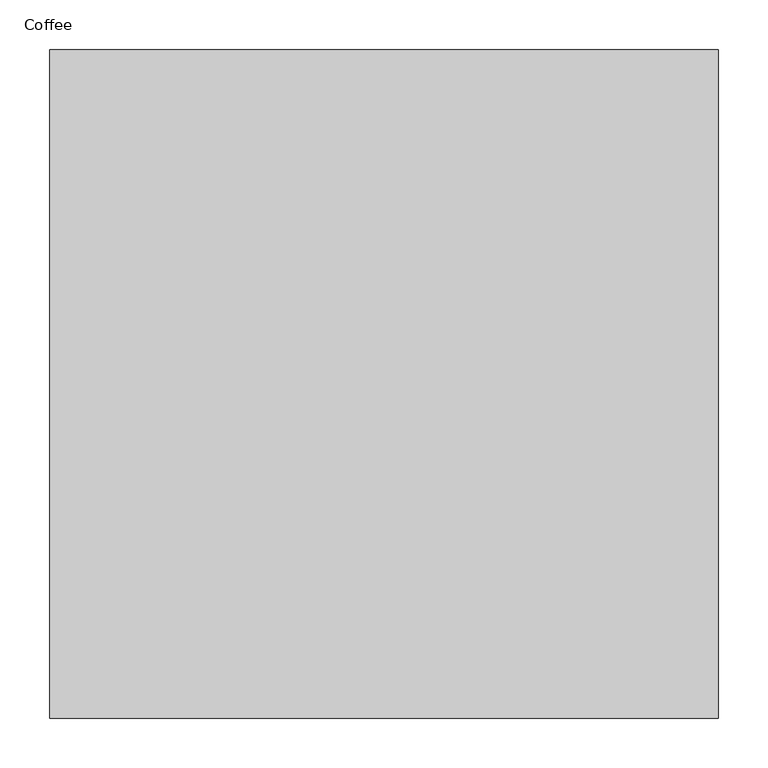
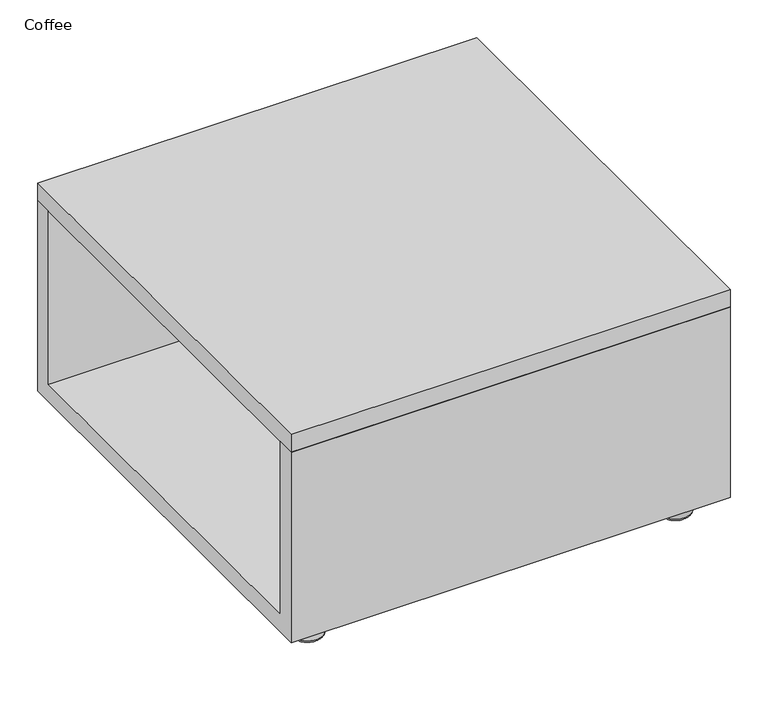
"""IFC4 building model written with IfcOpenShell, lengths in millimetres: furniture geometry, Steelcase Turnstone - Jenny - Table - Occasional - Low Feet : Coffee."""

import ifcopenshell
import ifcopenshell.guid

model = None  # the IFC model being written
_history = None  # IfcOwnerHistory: only IFC2X3 demands one
_inside = {}  # id of a spatial element -> (the spatial element, [elements in it])
_under = {}  # id of a project, library or spatial element -> (it, [spatial elements below it])
_declared = {}  # id of a project -> (the project, [libraries it declares])
_typed = {}  # id of a type object -> (the type object, [elements of that type])
_made_of = {}  # id of a material, layer set ... -> (it, [elements and type objects made of it])


def new_model(schema):
    """Start an empty IFC model of exactly this schema.

    Asked for "IFC4X3", IfcOpenShell would pick the latest addendum, in which some entities
    have other attributes; the version numbers below select the first issue.
    IFC2X3 requires an IfcOwnerHistory on every rooted entity: one is made here for all.
    """
    global model, _history
    if schema == "IFC4X3":
        model = ifcopenshell.file(schema_version=(4, 3, 0, 0))
    else:
        model = ifcopenshell.file(schema=schema)
    _inside.clear()
    _under.clear()
    _declared.clear()
    _typed.clear()
    _made_of.clear()
    _history = None
    if model.schema == "IFC2X3":
        org = make("IfcOrganization", Name="unknown")
        user = make(
            "IfcPersonAndOrganization",
            ThePerson=make("IfcPerson", FamilyName="unknown"),
            TheOrganization=org,
        )
        app = make(
            "IfcApplication",
            ApplicationDeveloper=org,
            Version="unknown",
            ApplicationFullName="unknown",
            ApplicationIdentifier="unknown",
        )
        _history = make(
            "IfcOwnerHistory",
            OwningUser=user,
            OwningApplication=app,
            ChangeAction="ADDED",
            CreationDate=0,
        )
    return model


def make(cls, **values):
    """One entity of the class cls with the attributes given. An attribute that is None is left unset."""
    return model.create_entity(
        cls, **{name: value for name, value in values.items() if value is not None}
    )


def rooted(cls, **values):
    """An entity with a GlobalId (a new one), such as an element, a storey or a relation."""
    return make(cls, GlobalId=ifcopenshell.guid.new(), OwnerHistory=_history, **values)


def si_unit(unit_type, name, prefix=None):
    """IfcSIUnit, for example si_unit("LENGTHUNIT", "METRE", prefix="MILLI")."""
    return make("IfcSIUnit", UnitType=unit_type, Prefix=prefix, Name=name)


def assignment(units):
    """IfcUnitAssignment: the units of a project."""
    return None if units is None else make("IfcUnitAssignment", Units=units)


def point(xyz):
    """IfcCartesianPoint."""
    return None if xyz is None else make("IfcCartesianPoint", Coordinates=xyz)


def direction(xyz):
    """IfcDirection."""
    return None if xyz is None else make("IfcDirection", DirectionRatios=xyz)


def frame(location, z_axis=None, x_axis=None):
    """IfcAxis2Placement3D, a coordinate frame: its origin and axes. An axis left out is left unset."""
    return make(
        "IfcAxis2Placement3D",
        Location=point(location),
        Axis=direction(z_axis),
        RefDirection=direction(x_axis),
    )


def origin():
    """The frame at (0, 0, 0) with its axes left unset."""
    return frame((0.0, 0.0, 0.0))


def place(relative_to, where):
    """IfcLocalPlacement: puts the frame where relative to a parent placement (None: the world)."""
    return make(
        "IfcLocalPlacement", PlacementRelTo=relative_to, RelativePlacement=where
    )


def context(
    kind, dimensions, precision=None, world=None, true_north=None, identifier=None
):
    """IfcGeometricRepresentationContext, for example the 3D "Model" context."""
    return make(
        "IfcGeometricRepresentationContext",
        ContextIdentifier=identifier,
        ContextType=kind,
        CoordinateSpaceDimension=dimensions,
        Precision=precision,
        WorldCoordinateSystem=world,
        TrueNorth=true_north,
    )


def project(units=None, contexts=None):
    """IfcProject with its units and contexts."""
    return rooted(
        "IfcProject",
        Name="project",
        RepresentationContexts=contexts,
        UnitsInContext=assignment(units),
    )


def spatial(cls, under=None, at=None, **own):
    """A site, building, storey or space (cls), placed at a placement, below another one or the project."""
    s = rooted(cls, ObjectPlacement=at, **own)
    if under is not None:
        _under.setdefault(under.id(), (under, []))[1].append(s)
    return s


def polyline(points):
    """IfcPolyline through the points."""
    return make("IfcPolyline", Points=[point(p) for p in points])


def circle_curve(where, radius):
    """IfcCircle in the frame where."""
    return make("IfcCircle", Position=where, Radius=radius)


def ellipse_curve(where, semi_axis1, semi_axis2):
    """IfcEllipse in the frame where."""
    return make(
        "IfcEllipse", Position=where, SemiAxis1=semi_axis1, SemiAxis2=semi_axis2
    )


def trimmed(basis, trim1, trim2, sense, master):
    """IfcTrimmedCurve: the piece of a basis curve between two trims."""
    return make(
        "IfcTrimmedCurve",
        BasisCurve=basis,
        Trim1=trim1,
        Trim2=trim2,
        SenseAgreement=sense,
        MasterRepresentation=master,
    )


def outline(outer, holes=None, kind="AREA"):
    """IfcArbitraryClosedProfileDef: a profile drawn as a closed curve; with holes, ...WithVoids."""
    if holes is None:
        return make("IfcArbitraryClosedProfileDef", ProfileType=kind, OuterCurve=outer)
    return make(
        "IfcArbitraryProfileDefWithVoids",
        ProfileType=kind,
        OuterCurve=outer,
        InnerCurves=holes,
    )


def extrude(swept, where, along, depth):
    """IfcExtrudedAreaSolid: the profile swept, set in the frame where, extruded along a direction by depth."""
    return make(
        "IfcExtrudedAreaSolid",
        SweptArea=swept,
        Position=where,
        ExtrudedDirection=direction(along),
        Depth=depth,
    )


def shape(context_of_items, identifier, shape_type, items):
    """IfcShapeRepresentation: the items that make up one representation, for example the "Body"."""
    return make(
        "IfcShapeRepresentation",
        ContextOfItems=context_of_items,
        RepresentationIdentifier=identifier,
        RepresentationType=shape_type,
        Items=items,
    )


def source(mapping_origin, context_of_items, identifier, shape_type, items):
    """IfcRepresentationMap: a shape defined once, which mapped items show again and again."""
    return make(
        "IfcRepresentationMap",
        MappingOrigin=mapping_origin,
        MappedRepresentation=shape(context_of_items, identifier, shape_type, items),
    )


def transform(
    local_origin,
    x_axis=None,
    y_axis=None,
    z_axis=None,
    scale=None,
    scale2=None,
    scale3=None,
    uniform=True,
):
    """IfcCartesianTransformationOperator3D, or its non-uniform kind. x_axis, y_axis, z_axis: its Axis1, 2, 3."""
    if uniform:
        return make(
            "IfcCartesianTransformationOperator3D",
            Axis1=direction(x_axis),
            Axis2=direction(y_axis),
            LocalOrigin=point(local_origin),
            Scale=scale,
            Axis3=direction(z_axis),
        )
    return make(
        "IfcCartesianTransformationOperator3DnonUniform",
        Axis1=direction(x_axis),
        Axis2=direction(y_axis),
        LocalOrigin=point(local_origin),
        Scale=scale,
        Axis3=direction(z_axis),
        Scale2=scale2,
        Scale3=scale3,
    )


def mapped(mapping_source, mapping_target):
    """IfcMappedItem: shows the shape of a source again, moved by a transform."""
    return make(
        "IfcMappedItem", MappingSource=mapping_source, MappingTarget=mapping_target
    )


def made_of(thing, what):
    """Note that an element or type object is made of a material, layer set ...; save() writes the relation."""
    if what is not None:
        _made_of.setdefault(what.id(), (what, []))[1].append(thing)
    return thing


def element(
    cls,
    number,
    at=None,
    inside=None,
    cuts=None,
    type_object=None,
    material=None,
    context=None,
    identifier="Body",
    shape_type=None,
    held_by="IfcProductDefinitionShape",
    body=None,
    shapes=None,
    **own,
):
    """One element of the class cls, such as IfcWall. Its Tag is "e" and its number.

    at: its placement. inside: the storey or other place that contains it. cuts: it is an
    opening in that element (IfcRelVoidsElement). A single representation is given by context,
    identifier, shape_type and body (its items); several are given by shapes. held_by: the class
    of the entity that holds the representations. save() writes the other relations.
    """
    e = rooted(cls, Tag="e%d" % number, ObjectPlacement=at, **own)
    if body is not None:
        shapes = [shape(context, identifier, shape_type, body)]
    if shapes is not None:
        e.Representation = make(held_by, Representations=shapes)
    if inside is not None:
        _inside.setdefault(inside.id(), (inside, []))[1].append(e)
    if cuts is not None:
        rooted(
            "IfcRelVoidsElement", RelatingBuildingElement=cuts, RelatedOpeningElement=e
        )
    if type_object is not None:
        _typed.setdefault(type_object.id(), (type_object, []))[1].append(e)
    return made_of(e, material)


def aggregate(whole, parts):
    """IfcRelAggregates: a whole, such as a stair, and the parts it consists of."""
    return rooted("IfcRelAggregates", RelatingObject=whole, RelatedObjects=parts)


def save(model, path):
    """Write the relations noted so far, then the file.

    IfcRelAggregates (storeys below a building ...), IfcRelContainedInSpatialStructure (elements
    in a storey), IfcRelDefinesByType, IfcRelAssociatesMaterial and IfcRelDeclares: one each for
    every whole, place, type object, material and project.
    """
    for whole, parts in _under.values():
        aggregate(whole, parts)
    for where, things in _inside.values():
        rooted(
            "IfcRelContainedInSpatialStructure",
            RelatedElements=things,
            RelatingStructure=where,
        )
    for kind, things in _typed.values():
        rooted("IfcRelDefinesByType", RelatedObjects=things, RelatingType=kind)
    for what, things in _made_of.values():
        rooted("IfcRelAssociatesMaterial", RelatedObjects=things, RelatingMaterial=what)
    for by, libraries in _declared.values():
        rooted("IfcRelDeclares", RelatingContext=by, RelatedDefinitions=libraries)
    model.write(path)


def plane_surface(at):
    """IfcPlane: the flat surface through the origin of the frame at, square to its z axis."""
    return make("IfcPlane", Position=at)


def cylinder_surface(at, radius):
    """IfcCylindricalSurface: all points at the distance radius from the z axis of the frame at."""
    return make("IfcCylindricalSurface", Position=at, Radius=radius)


def revolved_surface(curve, axis_point, axis_direction):
    """IfcSurfaceOfRevolution: the curve turned about the line through axis_point along axis_direction."""
    return make(
        "IfcSurfaceOfRevolution",
        SweptCurve=make("IfcArbitraryOpenProfileDef", ProfileType="CURVE", Curve=curve),
        AxisPosition=make("IfcAxis1Placement", Location=point(axis_point), Axis=direction(axis_direction)),
    )


def advanced_brep(points, edges, surfaces, faces):
    """IfcAdvancedBrep: a solid bounded by faces that lie on surfaces and meet in shared edges.

    An edge is (start, end): straight between two places in points (the first is 0);
    or (start, end, curve); or (start, end, curve, False) where it runs against its curve.
    A face is (place in surfaces, loops), or (place, loops, False) where it looks against
    its surface's normal. A loop lists edges by number (the first is 1), with a minus sign
    where the edge is run from its end to its start. The first loop is the outer one.
    """
    corners = [point(p) for p in points]
    vertices = [make("IfcVertexPoint", VertexGeometry=c) for c in corners]
    made = []
    for start, end, *more in edges:
        made.append(
            make(
                "IfcEdgeCurve",
                EdgeStart=vertices[start],
                EdgeEnd=vertices[end],
                EdgeGeometry=more[0] if more else make("IfcPolyline", Points=[corners[start], corners[end]]),
                SameSense=more[1] if len(more) > 1 else True,
            )
        )
    hull = []
    for where, loops, *sense in faces:
        bounds = []
        for j, loop in enumerate(loops):
            ring = [make("IfcOrientedEdge", EdgeElement=made[abs(k) - 1], Orientation=k > 0) for k in loop]
            bounds.append(
                make(
                    "IfcFaceOuterBound" if j == 0 else "IfcFaceBound",
                    Bound=make("IfcEdgeLoop", EdgeList=ring),
                    Orientation=True,
                )
            )
        hull.append(make("IfcAdvancedFace", Bounds=bounds, FaceSurface=surfaces[where], SameSense=sense[0] if sense else True))
    return make("IfcAdvancedBrep", Outer=make("IfcClosedShell", CfsFaces=hull))


def coffee_516a3fa5(model_context):
    return source(origin(), model_context, "Body", "SolidModel", [
        advanced_brep(
        [(629.9212936, -621.2741914, 0.0), (607.2241711, -621.2741914, 0.0), (618.5727324, -621.2741914, 0.0), (631.1912935, -621.2741914, 1.2699999), (605.9541712, -621.2741914, 1.2699999), (631.1912935, -621.2741914, 2.9122677), (605.9541712, -621.2741914, 2.9122677), (638.1106836, -621.2741914, 2.9122677), (599.0347811, -621.2741914, 2.9122677), (642.0900352, -621.2741914, 6.5984053), (595.0554295, -621.2741914, 6.5984053), (642.9427038, -621.2741914, 38.1), (594.2027609, -621.2741914, 38.1), (618.5727324, -621.2741914, 38.1)],
        [
            (0, 1, circle_curve(frame((618.5727324, -621.2741914, 0.0), z_axis=(0.0, 0.0, -1.0), x_axis=(-1.0, 0.0, 0.0)), 11.3485612)),
            (1, 2),
            (2, 0),
            (1, 0, circle_curve(frame((618.5727324, -621.2741914, 0.0), z_axis=(0.0, 0.0, -1.0), x_axis=(-1.0, 0.0, 0.0)), 11.3485612)),
            (3, 4, circle_curve(frame((618.5727324, -621.2741914, 1.2699999), z_axis=(0.0, 0.0, -1.0), x_axis=(-1.0, 0.0, 0.0)), 12.6185612)),
            (4, 1),
            (0, 3),
            (4, 3, circle_curve(frame((618.5727324, -621.2741914, 1.2699999), z_axis=(0.0, 0.0, -1.0), x_axis=(-1.0, 0.0, 0.0)), 12.6185612)),
            (5, 6, circle_curve(frame((618.5727324, -621.2741914, 2.9122677), z_axis=(0.0, 0.0, -1.0), x_axis=(-1.0, 0.0, 0.0)), 12.6185612)),
            (6, 4),
            (3, 5),
            (6, 5, circle_curve(frame((618.5727324, -621.2741914, 2.9122677), z_axis=(0.0, 0.0, -1.0), x_axis=(-1.0, 0.0, 0.0)), 12.6185612)),
            (7, 8, circle_curve(frame((618.5727324, -621.2741914, 2.9122677), z_axis=(0.0, 0.0, -1.0), x_axis=(-1.0, 0.0, 0.0)), 19.5379512)),
            (8, 6),
            (5, 7),
            (8, 7, circle_curve(frame((618.5727324, -621.2741914, 2.9122677), z_axis=(0.0, 0.0, -1.0), x_axis=(-1.0, 0.0, 0.0)), 19.5379512)),
            (9, 10, circle_curve(frame((618.5727324, -621.2741914, 6.5984053), z_axis=(0.0, 0.0, -1.0), x_axis=(-1.0, 0.0, 0.0)), 23.5173029)),
            (10, 8, circle_curve(frame((599.0347811, -621.2741914, 6.9032812), z_axis=(0.0, -1.0, 0.0), x_axis=(0.0, 0.0, -1.0)), 3.9910135)),
            (7, 9, circle_curve(frame((638.1106836, -621.2741914, 6.9032812), z_axis=(0.0, -1.0, 0.0), x_axis=(0.0, 0.0, -1.0)), 3.9910135)),
            (10, 9, circle_curve(frame((618.5727324, -621.2741914, 6.5984053), z_axis=(0.0, 0.0, -1.0), x_axis=(-1.0, 0.0, 0.0)), 23.5173029)),
            (11, 12, circle_curve(frame((618.5727324, -621.2741914, 38.1), z_axis=(0.0, 0.0, -1.0), x_axis=(-1.0, 0.0, 0.0)), 24.3699714)),
            (12, 10),
            (9, 11),
            (12, 11, circle_curve(frame((618.5727324, -621.2741914, 38.1), z_axis=(0.0, 0.0, -1.0), x_axis=(-1.0, 0.0, 0.0)), 24.3699714)),
            (13, 12),
            (11, 13),
        ],
        [
            plane_surface(frame((618.5727324, -621.2741914, 0.0), z_axis=(0.0, 0.0, -1.0), x_axis=(-1.0, 0.0, 0.0))),
            revolved_surface(polyline([(607.2241711, -621.2741914, 0.0), (605.9541712, -621.2741914, 1.2699999)]), (618.5727324, -621.2741914, 95.7636405), (0.0, 0.0, 1.0)),
            cylinder_surface(frame((618.5727324, -621.2741914, 95.7636405), z_axis=(0.0, 0.0, 1.0), x_axis=(-1.0, 0.0, 0.0)), 12.6185612),
            plane_surface(frame((618.5727324, -621.2741914, 2.9122677), z_axis=(0.0, 0.0, -1.0), x_axis=(-1.0, 0.0, 0.0))),
            revolved_surface(trimmed(ellipse_curve(frame((599.0347811, -621.2741914, 6.9032812), z_axis=(0.0, 1.0, 0.0), x_axis=(0.0, 0.0, -1.0)), 3.9910135, 3.9910135), [point((599.0347811, -621.2741914, 2.9122677))], [point((595.0554295, -621.2741914, 6.5984053))], True, "CARTESIAN"), (618.5727324, -621.2741914, 95.7636405), (0.0, 0.0, 1.0)),
            revolved_surface(polyline([(595.0554295, -621.2741914, 6.5984053), (594.2027609, -621.2741914, 38.1)]), (618.5727324, -621.2741914, 95.7636405), (0.0, 0.0, 1.0)),
            plane_surface(frame((618.5727324, -621.2741914, 38.1), z_axis=(0.0, 0.0, 1.0), x_axis=(-1.0, 0.0, 0.0))),
        ],
        [
            (0, [[1, 2, 3]]),
            (0, [[4, -3, -2]]),
            (1, [[5, 6, -1, 7]]),
            (1, [[8, -7, -4, -6]]),
            (2, [[9, 10, -5, 11]]),
            (2, [[12, -11, -8, -10]]),
            (3, [[13, 14, -9, 15]]),
            (3, [[16, -15, -12, -14]]),
            (4, [[17, 18, -13, 19]]),
            (4, [[20, -19, -16, -18]]),
            (5, [[21, 22, -17, 23]]),
            (5, [[24, -23, -20, -22]]),
            (6, [[25, -21, 26]]),
            (6, [[-26, -24, -25]]),
        ],
    ),
        advanced_brep(
        [(54.5272676, -621.2741914, 0.0), (65.8758289, -621.2741914, 0.0), (43.1787064, -621.2741914, 0.0), (67.1458288, -621.2741914, 1.2699999), (41.9087065, -621.2741914, 1.2699999), (67.1458288, -621.2741914, 2.9122677), (41.9087065, -621.2741914, 2.9122677), (74.0652189, -621.2741914, 2.9122677), (34.9893164, -621.2741914, 2.9122677), (78.0445705, -621.2741914, 6.5984053), (31.0099648, -621.2741914, 6.5984053), (78.8972391, -621.2741914, 38.1), (30.1572962, -621.2741914, 38.1), (54.5272676, -621.2741914, 38.1)],
        [
            (0, 1),
            (1, 2, circle_curve(frame((54.5272676, -621.2741914, 0.0), z_axis=(0.0, 0.0, -1.0), x_axis=(1.0, 0.0, 0.0)), 11.3485612)),
            (2, 0),
            (2, 1, circle_curve(frame((54.5272676, -621.2741914, 0.0), z_axis=(0.0, 0.0, -1.0), x_axis=(1.0, 0.0, 0.0)), 11.3485612)),
            (1, 3),
            (3, 4, circle_curve(frame((54.5272676, -621.2741914, 1.2699999), z_axis=(0.0, 0.0, -1.0), x_axis=(1.0, 0.0, 0.0)), 12.6185612)),
            (4, 2),
            (4, 3, circle_curve(frame((54.5272676, -621.2741914, 1.2699999), z_axis=(0.0, 0.0, -1.0), x_axis=(1.0, 0.0, 0.0)), 12.6185612)),
            (3, 5),
            (5, 6, circle_curve(frame((54.5272676, -621.2741914, 2.9122677), z_axis=(0.0, 0.0, -1.0), x_axis=(1.0, 0.0, 0.0)), 12.6185612)),
            (6, 4),
            (6, 5, circle_curve(frame((54.5272676, -621.2741914, 2.9122677), z_axis=(0.0, 0.0, -1.0), x_axis=(1.0, 0.0, 0.0)), 12.6185612)),
            (5, 7),
            (7, 8, circle_curve(frame((54.5272676, -621.2741914, 2.9122677), z_axis=(0.0, 0.0, -1.0), x_axis=(1.0, 0.0, 0.0)), 19.5379512)),
            (8, 6),
            (8, 7, circle_curve(frame((54.5272676, -621.2741914, 2.9122677), z_axis=(0.0, 0.0, -1.0), x_axis=(1.0, 0.0, 0.0)), 19.5379512)),
            (7, 9, circle_curve(frame((74.0652189, -621.2741914, 6.9032812), z_axis=(0.0, -1.0, 0.0), x_axis=(0.0, 0.0, -1.0)), 3.9910135)),
            (9, 10, circle_curve(frame((54.5272676, -621.2741914, 6.5984053), z_axis=(0.0, 0.0, -1.0), x_axis=(1.0, 0.0, 0.0)), 23.5173029)),
            (10, 8, circle_curve(frame((34.9893164, -621.2741914, 6.9032812), z_axis=(0.0, -1.0, 0.0), x_axis=(0.0, 0.0, -1.0)), 3.9910135)),
            (10, 9, circle_curve(frame((54.5272676, -621.2741914, 6.5984053), z_axis=(0.0, 0.0, -1.0), x_axis=(1.0, 0.0, 0.0)), 23.5173029)),
            (9, 11),
            (11, 12, circle_curve(frame((54.5272676, -621.2741914, 38.1), z_axis=(0.0, 0.0, -1.0), x_axis=(1.0, 0.0, 0.0)), 24.3699714)),
            (12, 10),
            (12, 11, circle_curve(frame((54.5272676, -621.2741914, 38.1), z_axis=(0.0, 0.0, -1.0), x_axis=(1.0, 0.0, 0.0)), 24.3699714)),
            (11, 13),
            (13, 12),
        ],
        [
            plane_surface(frame((54.5272676, -621.2741914, 0.0), z_axis=(0.0, 0.0, -1.0), x_axis=(1.0, 0.0, 0.0))),
            revolved_surface(polyline([(67.1458288, -621.2741914, 1.2699999), (65.8758289, -621.2741914, 0.0)]), (54.5272676, -621.2741914, 95.7636405), (0.0, 0.0, -1.0)),
            cylinder_surface(frame((54.5272676, -621.2741914, 95.7636405), z_axis=(0.0, 0.0, -1.0), x_axis=(1.0, 0.0, 0.0)), 12.6185612),
            plane_surface(frame((54.5272676, -621.2741914, 2.9122677), z_axis=(0.0, 0.0, -1.0), x_axis=(1.0, 0.0, 0.0))),
            revolved_surface(trimmed(ellipse_curve(frame((74.0652189, -621.2741914, 6.9032812), z_axis=(0.0, 1.0, 0.0), x_axis=(0.0, 0.0, -1.0)), 3.9910135, 3.9910135), [point((78.0445705, -621.2741914, 6.5984053))], [point((74.0652189, -621.2741914, 2.9122677))], True, "CARTESIAN"), (54.5272676, -621.2741914, 95.7636405), (0.0, 0.0, -1.0)),
            revolved_surface(polyline([(78.8972391, -621.2741914, 38.1), (78.0445705, -621.2741914, 6.5984053)]), (54.5272676, -621.2741914, 95.7636405), (0.0, 0.0, -1.0)),
            plane_surface(frame((54.5272676, -621.2741914, 38.1), z_axis=(0.0, 0.0, 1.0), x_axis=(1.0, 0.0, 0.0))),
        ],
        [
            (0, [[1, 2, 3]]),
            (0, [[-3, 4, -1]]),
            (1, [[-2, 5, 6, 7]]),
            (1, [[-4, -7, 8, -5]]),
            (2, [[-6, 9, 10, 11]]),
            (2, [[-8, -11, 12, -9]]),
            (3, [[-10, 13, 14, 15]]),
            (3, [[-12, -15, 16, -13]]),
            (4, [[-14, 17, 18, 19]]),
            (4, [[-16, -19, 20, -17]]),
            (5, [[-18, 21, 22, 23]]),
            (5, [[-20, -23, 24, -21]]),
            (6, [[-22, 25, 26]]),
            (6, [[-24, -26, -25]]),
        ],
    ),
        advanced_brep(
        [(618.5727324, -51.8258086, 0.0), (607.2241711, -51.8258086, 0.0), (629.9212936, -51.8258086, 0.0), (605.9541712, -51.8258086, 1.2699999), (631.1912935, -51.8258086, 1.2699999), (605.9541712, -51.8258086, 2.9122677), (631.1912935, -51.8258086, 2.9122677), (599.0347811, -51.8258086, 2.9122677), (638.1106836, -51.8258086, 2.9122677), (595.0554295, -51.8258086, 6.5984053), (642.0900352, -51.8258086, 6.5984053), (594.2027609, -51.8258086, 38.1), (642.9427038, -51.8258086, 38.1), (618.5727324, -51.8258086, 38.1)],
        [
            (0, 1),
            (1, 2, circle_curve(frame((618.5727324, -51.8258086, 0.0), z_axis=(0.0, 0.0, -1.0), x_axis=(-1.0, 0.0, 0.0)), 11.3485612)),
            (2, 0),
            (2, 1, circle_curve(frame((618.5727324, -51.8258086, 0.0), z_axis=(0.0, 0.0, -1.0), x_axis=(-1.0, 0.0, 0.0)), 11.3485612)),
            (1, 3),
            (3, 4, circle_curve(frame((618.5727324, -51.8258086, 1.2699999), z_axis=(0.0, 0.0, -1.0), x_axis=(-1.0, 0.0, 0.0)), 12.6185612)),
            (4, 2),
            (4, 3, circle_curve(frame((618.5727324, -51.8258086, 1.2699999), z_axis=(0.0, 0.0, -1.0), x_axis=(-1.0, 0.0, 0.0)), 12.6185612)),
            (3, 5),
            (5, 6, circle_curve(frame((618.5727324, -51.8258086, 2.9122677), z_axis=(0.0, 0.0, -1.0), x_axis=(-1.0, 0.0, 0.0)), 12.6185612)),
            (6, 4),
            (6, 5, circle_curve(frame((618.5727324, -51.8258086, 2.9122677), z_axis=(0.0, 0.0, -1.0), x_axis=(-1.0, 0.0, 0.0)), 12.6185612)),
            (5, 7),
            (7, 8, circle_curve(frame((618.5727324, -51.8258086, 2.9122677), z_axis=(0.0, 0.0, -1.0), x_axis=(-1.0, 0.0, 0.0)), 19.5379512)),
            (8, 6),
            (8, 7, circle_curve(frame((618.5727324, -51.8258086, 2.9122677), z_axis=(0.0, 0.0, -1.0), x_axis=(-1.0, 0.0, 0.0)), 19.5379512)),
            (7, 9, circle_curve(frame((599.0347811, -51.8258086, 6.9032812), z_axis=(0.0, 1.0, 0.0), x_axis=(0.0, 0.0, -1.0)), 3.9910135)),
            (9, 10, circle_curve(frame((618.5727324, -51.8258086, 6.5984053), z_axis=(0.0, 0.0, -1.0), x_axis=(-1.0, 0.0, 0.0)), 23.5173029)),
            (10, 8, circle_curve(frame((638.1106836, -51.8258086, 6.9032812), z_axis=(0.0, 1.0, 0.0), x_axis=(0.0, 0.0, -1.0)), 3.9910135)),
            (10, 9, circle_curve(frame((618.5727324, -51.8258086, 6.5984053), z_axis=(0.0, 0.0, -1.0), x_axis=(-1.0, 0.0, 0.0)), 23.5173029)),
            (9, 11),
            (11, 12, circle_curve(frame((618.5727324, -51.8258086, 38.1), z_axis=(0.0, 0.0, -1.0), x_axis=(-1.0, 0.0, 0.0)), 24.3699714)),
            (12, 10),
            (12, 11, circle_curve(frame((618.5727324, -51.8258086, 38.1), z_axis=(0.0, 0.0, -1.0), x_axis=(-1.0, 0.0, 0.0)), 24.3699714)),
            (11, 13),
            (13, 12),
        ],
        [
            plane_surface(frame((618.5727324, -51.8258086, 0.0), z_axis=(0.0, 0.0, -1.0), x_axis=(-1.0, 0.0, 0.0))),
            revolved_surface(polyline([(605.9541712, -51.8258086, 1.2699999), (607.2241711, -51.8258086, 0.0)]), (618.5727324, -51.8258086, 95.7636405), (0.0, 0.0, -1.0)),
            cylinder_surface(frame((618.5727324, -51.8258086, 95.7636405), z_axis=(0.0, 0.0, -1.0), x_axis=(-1.0, 0.0, 0.0)), 12.6185612),
            plane_surface(frame((618.5727324, -51.8258086, 2.9122677), z_axis=(0.0, 0.0, -1.0), x_axis=(-1.0, 0.0, 0.0))),
            revolved_surface(trimmed(ellipse_curve(frame((599.0347811, -51.8258086, 6.9032812), z_axis=(0.0, -1.0, 0.0), x_axis=(0.0, 0.0, -1.0)), 3.9910135, 3.9910135), [point((595.0554295, -51.8258086, 6.5984053))], [point((599.0347811, -51.8258086, 2.9122677))], True, "CARTESIAN"), (618.5727324, -51.8258086, 95.7636405), (0.0, 0.0, -1.0)),
            revolved_surface(polyline([(594.2027609, -51.8258086, 38.1), (595.0554295, -51.8258086, 6.5984053)]), (618.5727324, -51.8258086, 95.7636405), (0.0, 0.0, -1.0)),
            plane_surface(frame((618.5727324, -51.8258086, 38.1), z_axis=(0.0, 0.0, 1.0), x_axis=(-1.0, 0.0, 0.0))),
        ],
        [
            (0, [[1, 2, 3]]),
            (0, [[-3, 4, -1]]),
            (1, [[-2, 5, 6, 7]]),
            (1, [[-4, -7, 8, -5]]),
            (2, [[-6, 9, 10, 11]]),
            (2, [[-8, -11, 12, -9]]),
            (3, [[-10, 13, 14, 15]]),
            (3, [[-12, -15, 16, -13]]),
            (4, [[-14, 17, 18, 19]]),
            (4, [[-16, -19, 20, -17]]),
            (5, [[-18, 21, 22, 23]]),
            (5, [[-20, -23, 24, -21]]),
            (6, [[-22, 25, 26]]),
            (6, [[-24, -26, -25]]),
        ],
    ),
        advanced_brep(
        [(43.1787064, -51.8258086, 0.0), (65.8758289, -51.8258086, 0.0), (54.5272676, -51.8258086, 0.0), (41.9087065, -51.8258086, 1.2699999), (67.1458288, -51.8258086, 1.2699999), (41.9087065, -51.8258086, 2.9122677), (67.1458288, -51.8258086, 2.9122677), (34.9893164, -51.8258086, 2.9122677), (74.0652189, -51.8258086, 2.9122677), (31.0099648, -51.8258086, 6.5984053), (78.0445705, -51.8258086, 6.5984053), (30.1572962, -51.8258086, 38.1), (78.8972391, -51.8258086, 38.1), (54.5272676, -51.8258086, 38.1)],
        [
            (0, 1, circle_curve(frame((54.5272676, -51.8258086, 0.0), z_axis=(0.0, 0.0, -1.0), x_axis=(1.0, 0.0, 0.0)), 11.3485612)),
            (1, 2),
            (2, 0),
            (1, 0, circle_curve(frame((54.5272676, -51.8258086, 0.0), z_axis=(0.0, 0.0, -1.0), x_axis=(1.0, 0.0, 0.0)), 11.3485612)),
            (3, 4, circle_curve(frame((54.5272676, -51.8258086, 1.2699999), z_axis=(0.0, 0.0, -1.0), x_axis=(1.0, 0.0, 0.0)), 12.6185612)),
            (4, 1),
            (0, 3),
            (4, 3, circle_curve(frame((54.5272676, -51.8258086, 1.2699999), z_axis=(0.0, 0.0, -1.0), x_axis=(1.0, 0.0, 0.0)), 12.6185612)),
            (5, 6, circle_curve(frame((54.5272676, -51.8258086, 2.9122677), z_axis=(0.0, 0.0, -1.0), x_axis=(1.0, 0.0, 0.0)), 12.6185612)),
            (6, 4),
            (3, 5),
            (6, 5, circle_curve(frame((54.5272676, -51.8258086, 2.9122677), z_axis=(0.0, 0.0, -1.0), x_axis=(1.0, 0.0, 0.0)), 12.6185612)),
            (7, 8, circle_curve(frame((54.5272676, -51.8258086, 2.9122677), z_axis=(0.0, 0.0, -1.0), x_axis=(1.0, 0.0, 0.0)), 19.5379512)),
            (8, 6),
            (5, 7),
            (8, 7, circle_curve(frame((54.5272676, -51.8258086, 2.9122677), z_axis=(0.0, 0.0, -1.0), x_axis=(1.0, 0.0, 0.0)), 19.5379512)),
            (9, 10, circle_curve(frame((54.5272676, -51.8258086, 6.5984053), z_axis=(0.0, 0.0, -1.0), x_axis=(1.0, 0.0, 0.0)), 23.5173029)),
            (10, 8, circle_curve(frame((74.0652189, -51.8258086, 6.9032812), z_axis=(0.0, 1.0, 0.0), x_axis=(0.0, 0.0, -1.0)), 3.9910135)),
            (7, 9, circle_curve(frame((34.9893164, -51.8258086, 6.9032812), z_axis=(0.0, 1.0, 0.0), x_axis=(0.0, 0.0, -1.0)), 3.9910135)),
            (10, 9, circle_curve(frame((54.5272676, -51.8258086, 6.5984053), z_axis=(0.0, 0.0, -1.0), x_axis=(1.0, 0.0, 0.0)), 23.5173029)),
            (11, 12, circle_curve(frame((54.5272676, -51.8258086, 38.1), z_axis=(0.0, 0.0, -1.0), x_axis=(1.0, 0.0, 0.0)), 24.3699714)),
            (12, 10),
            (9, 11),
            (12, 11, circle_curve(frame((54.5272676, -51.8258086, 38.1), z_axis=(0.0, 0.0, -1.0), x_axis=(1.0, 0.0, 0.0)), 24.3699714)),
            (13, 12),
            (11, 13),
        ],
        [
            plane_surface(frame((54.5272676, -51.8258086, 0.0), z_axis=(0.0, 0.0, -1.0), x_axis=(1.0, 0.0, 0.0))),
            revolved_surface(polyline([(65.8758289, -51.8258086, 0.0), (67.1458288, -51.8258086, 1.2699999)]), (54.5272676, -51.8258086, 95.7636405), (0.0, 0.0, 1.0)),
            cylinder_surface(frame((54.5272676, -51.8258086, 95.7636405), z_axis=(0.0, 0.0, 1.0), x_axis=(1.0, 0.0, 0.0)), 12.6185612),
            plane_surface(frame((54.5272676, -51.8258086, 2.9122677), z_axis=(0.0, 0.0, -1.0), x_axis=(1.0, 0.0, 0.0))),
            revolved_surface(trimmed(ellipse_curve(frame((74.0652189, -51.8258086, 6.9032812), z_axis=(0.0, -1.0, 0.0), x_axis=(0.0, 0.0, -1.0)), 3.9910135, 3.9910135), [point((74.0652189, -51.8258086, 2.9122677))], [point((78.0445705, -51.8258086, 6.5984053))], True, "CARTESIAN"), (54.5272676, -51.8258086, 95.7636405), (0.0, 0.0, 1.0)),
            revolved_surface(polyline([(78.0445705, -51.8258086, 6.5984053), (78.8972391, -51.8258086, 38.1)]), (54.5272676, -51.8258086, 95.7636405), (0.0, 0.0, 1.0)),
            plane_surface(frame((54.5272676, -51.8258086, 38.1), z_axis=(0.0, 0.0, 1.0), x_axis=(1.0, 0.0, 0.0))),
        ],
        [
            (0, [[1, 2, 3]]),
            (0, [[4, -3, -2]]),
            (1, [[5, 6, -1, 7]]),
            (1, [[8, -7, -4, -6]]),
            (2, [[9, 10, -5, 11]]),
            (2, [[12, -11, -8, -10]]),
            (3, [[13, 14, -9, 15]]),
            (3, [[16, -15, -12, -14]]),
            (4, [[17, 18, -13, 19]]),
            (4, [[20, -19, -16, -18]]),
            (5, [[21, 22, -17, 23]]),
            (5, [[24, -23, -20, -22]]),
            (6, [[25, -21, 26]]),
            (6, [[-26, -24, -25]]),
        ],
    ),
        extrude(outline(polyline([(0.0, 38.1), (-673.1, 38.1), (-673.1, 346.9219475), (-644.5250727, 346.9219475), (-644.5250727, 66.4208367), (-28.575, 66.4208367), (-28.575, 346.9219475), (0.0, 346.9219475), (0.0, 38.1)])), frame((0.0, 0.0, 0.0), z_axis=(1.0, 0.0, 0.0), x_axis=(0.0, 1.0, 0.0)), (0.0, 0.0, 1.0), 673.1),
        extrude(outline(polyline([(673.1, 0.0), (673.1, -673.1), (0.0, -673.1), (0.0, 0.0), (673.1, 0.0)])), frame((0.0, 0.0, 346.9219475), z_axis=(0.0, 0.0, 1.0), x_axis=(1.0, 0.0, 0.0)), (0.0, 0.0, 1.0), 28.575),
    ])


if __name__ == "__main__":
    model = new_model("IFC4")
    model_context = context("Model", 3, world=origin())
    ifc_project = project(units=[si_unit("LENGTHUNIT", "METRE", prefix="MILLI")], contexts=[model_context])
    site = spatial("IfcSite", under=ifc_project)
    building = spatial("IfcBuilding", under=site)
    placement = place(None, origin())
    coffee_shape = coffee_516a3fa5(model_context)
    element("IfcFurniture", 1, ObjectType="Steelcase Turnstone - Jenny - Table - Occasional - Low Feet : Coffee", at=placement, inside=building, context=model_context, shape_type="MappedRepresentation", body=[
        mapped(coffee_shape, transform((0.0, 0.0, 0.0), x_axis=(1.0, 0.0, 0.0), y_axis=(0.0, 1.0, 0.0), z_axis=(0.0, 0.0, 1.0))),
    ])
    save(model, "model.ifc")
